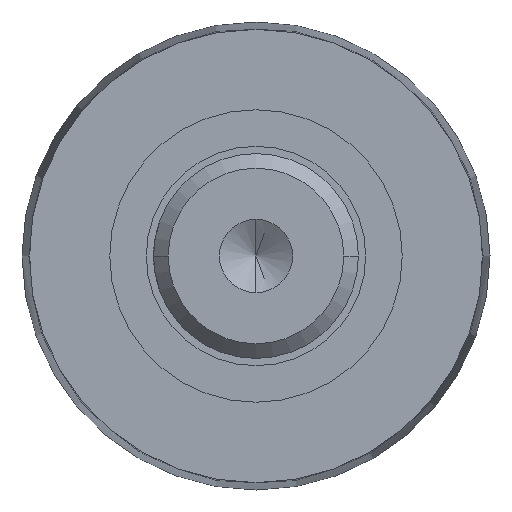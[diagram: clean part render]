
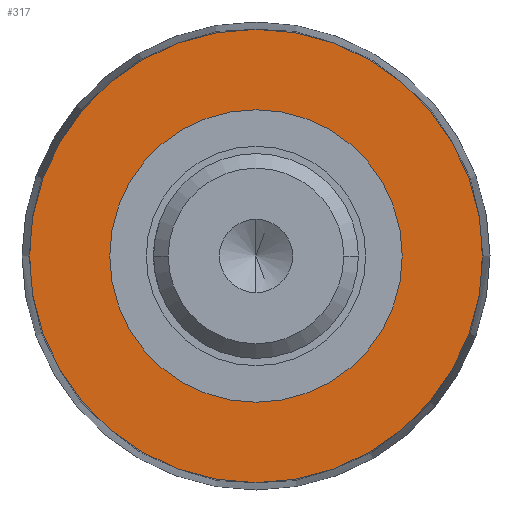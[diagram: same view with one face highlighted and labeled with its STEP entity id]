
A CAD part, left-side view. The second image highlights one B-rep face of the part: STEP entity #317.
In plain terms, the highlighted planar face has unit normal (-1, 0, 0).
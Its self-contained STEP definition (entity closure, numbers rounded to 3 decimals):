
#38 = VERTEX_POINT ( 'NONE', #443 ) ;
#46 = DIRECTION ( 'NONE',  ( 1., 0., 0. ) ) ;
#62 = CIRCLE ( 'NONE', #831, 15.5 ) ;
#78 = EDGE_CURVE ( 'NONE', #959, #662, #62, .T. ) ;
#95 = DIRECTION ( 'NONE',  ( 0., 1., 0. ) ) ;
#96 = PLANE ( 'NONE',  #695 ) ;
#101 = DIRECTION ( 'NONE',  ( 0., -1., 0. ) ) ;
#154 = DIRECTION ( 'NONE',  ( 0., 1., 0. ) ) ;
#184 = CARTESIAN_POINT ( 'NONE',  ( -124.5, 0., 0. ) ) ;
#220 = EDGE_CURVE ( 'NONE', #1017, #38, #227, .T. ) ;
#227 = CIRCLE ( 'NONE', #1136, 10. ) ;
#235 = CARTESIAN_POINT ( 'NONE',  ( -124.5, 0., 0. ) ) ;
#311 = CIRCLE ( 'NONE', #1099, 15.5 ) ;
#317 = ADVANCED_FACE ( 'NONE', ( #1197, #697 ), #96, .T. ) ;
#349 = DIRECTION ( 'NONE',  ( 0., 1., 0. ) ) ;
#360 = EDGE_LOOP ( 'NONE', ( #980, #770 ) ) ;
#397 = EDGE_LOOP ( 'NONE', ( #1096, #1118 ) ) ;
#408 = CIRCLE ( 'NONE', #1070, 10. ) ;
#443 = CARTESIAN_POINT ( 'NONE',  ( -124.5, 10., 0. ) ) ;
#569 = CARTESIAN_POINT ( 'NONE',  ( -124.5, 0., 0. ) ) ;
#577 = DIRECTION ( 'NONE',  ( 1., 0., 0. ) ) ;
#579 = DIRECTION ( 'NONE',  ( 1., 0., 0. ) ) ;
#627 = CARTESIAN_POINT ( 'NONE',  ( -124.5, 0., 0. ) ) ;
#662 = VERTEX_POINT ( 'NONE', #698 ) ;
#678 = DIRECTION ( 'NONE',  ( -1., 0., 0. ) ) ;
#695 = AXIS2_PLACEMENT_3D ( 'NONE', #1253, #678, #101 ) ;
#697 = FACE_OUTER_BOUND ( 'NONE', #397, .T. ) ;
#698 = CARTESIAN_POINT ( 'NONE',  ( -124.5, -15.5, 0. ) ) ;
#707 = CARTESIAN_POINT ( 'NONE',  ( -124.5, -10., 0. ) ) ;
#727 = EDGE_CURVE ( 'NONE', #38, #1017, #408, .T. ) ;
#763 = DIRECTION ( 'NONE',  ( 0., 1., 0. ) ) ;
#770 = ORIENTED_EDGE ( 'NONE', *, *, #220, .T. ) ;
#831 = AXIS2_PLACEMENT_3D ( 'NONE', #627, #46, #154 ) ;
#959 = VERTEX_POINT ( 'NONE', #1229 ) ;
#980 = ORIENTED_EDGE ( 'NONE', *, *, #727, .T. ) ;
#1017 = VERTEX_POINT ( 'NONE', #707 ) ;
#1028 = DIRECTION ( 'NONE',  ( 1., 0., 0. ) ) ;
#1070 = AXIS2_PLACEMENT_3D ( 'NONE', #235, #1028, #349 ) ;
#1096 = ORIENTED_EDGE ( 'NONE', *, *, #78, .F. ) ;
#1099 = AXIS2_PLACEMENT_3D ( 'NONE', #184, #579, #95 ) ;
#1118 = ORIENTED_EDGE ( 'NONE', *, *, #1218, .F. ) ;
#1136 = AXIS2_PLACEMENT_3D ( 'NONE', #569, #577, #763 ) ;
#1197 = FACE_BOUND ( 'NONE', #360, .T. ) ;
#1218 = EDGE_CURVE ( 'NONE', #662, #959, #311, .T. ) ;
#1229 = CARTESIAN_POINT ( 'NONE',  ( -124.5, 15.5, 0. ) ) ;
#1253 = CARTESIAN_POINT ( 'NONE',  ( -124.5, 10., 0. ) ) ;
